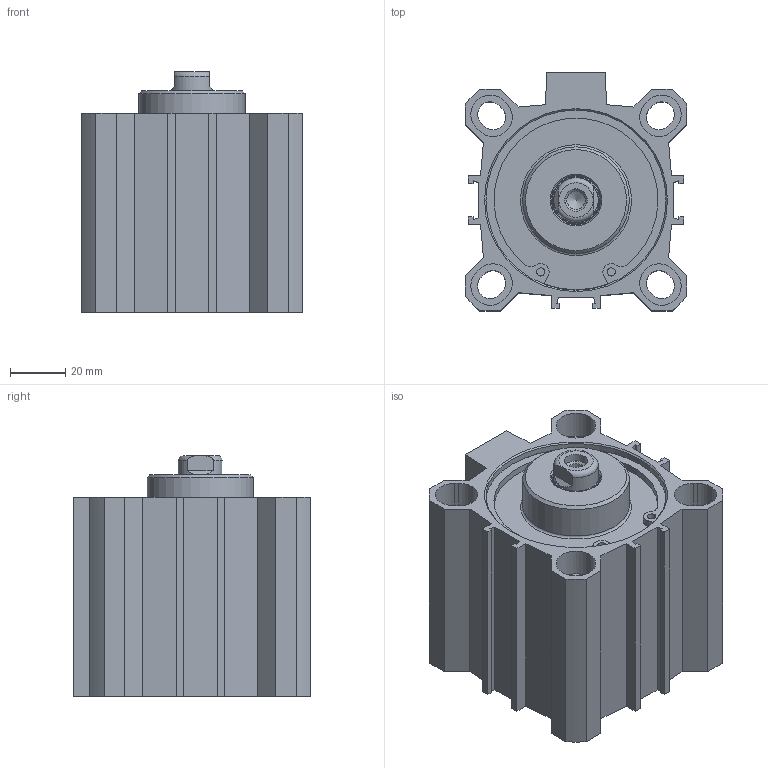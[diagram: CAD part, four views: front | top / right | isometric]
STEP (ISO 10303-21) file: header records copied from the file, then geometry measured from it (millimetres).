
FILE_DESCRIPTION(/* description */ ('Unknown'),/* implementation_level */ '2;1');
FILE_NAME(/* name */ 'FIN 63_30',/* time_stamp */ '2026-05-12T08:35:09+02:00',/* author */ ('Unknown'),/* organization */ ('Unknown'),/* preprocessor_version */ 'ST-DEVELOPER v18.102',/* originating_system */ 'Solid Edge',/* authorisation */ 'Unknown');
FILE_SCHEMA (('AUTOMOTIVE_DESIGN {1 0 10303 214 3 1 1}'));
Length unit declared in the file: millimetre
Products named in the file (5): FIN 63_30; Kit_1; Profilrohr; Kit_2; Kolbenstange
Assembly tree (4 placements, depth 2):
  FIN 63_30
    Kit_1
    Profilrohr
    Kit_2
    Kolbenstange
Bounding box: 80 x 86 x 87 mm (x, y, z)
Volume: 269699.3 mm3; surface area: 94746.2 mm2
Topology: 4 solids, 5 shells, 240 faces, 587 edges, 378 vertices
Faces by surface type: plane 131, cylinder 72, cone 27, torus 10
Full cylindrical faces by diameter (mm): 3 x4, 3.2 x2, 6.647 x2, 8.25 x1, 8.566 x4, 16 x2, 16.54 x1, 17.7 x1, 18 x1, 20.32 x1, 20.5 x1, 38.5 x1, 47 x1, 63 x2, 64.7 x4, 65.1 x2, 68.2 x2
Entity records: 8524 total; most frequent: CARTESIAN_POINT 1272, DIRECTION 1164, ORIENTED_EDGE 1012, EDGE_CURVE 506, AXIS2_PLACEMENT_3D 423, VERTEX_POINT 365, FACE_BOUND 347, EDGE_LOOP 346
